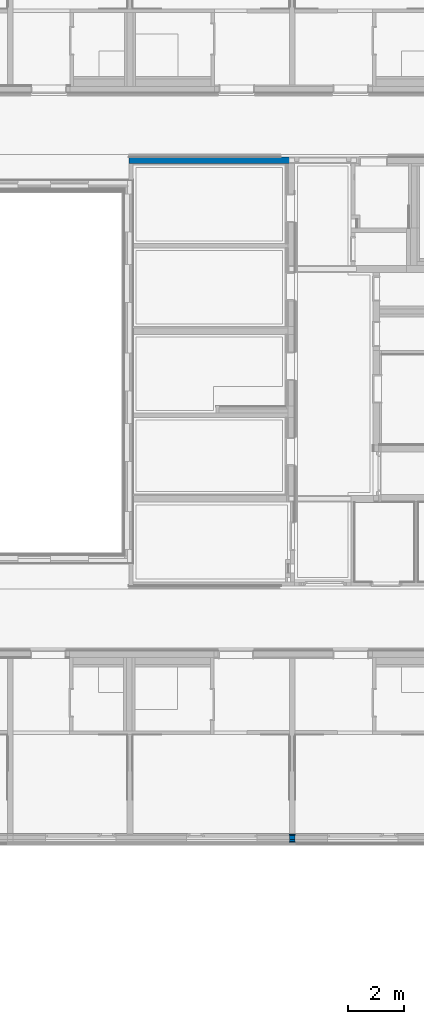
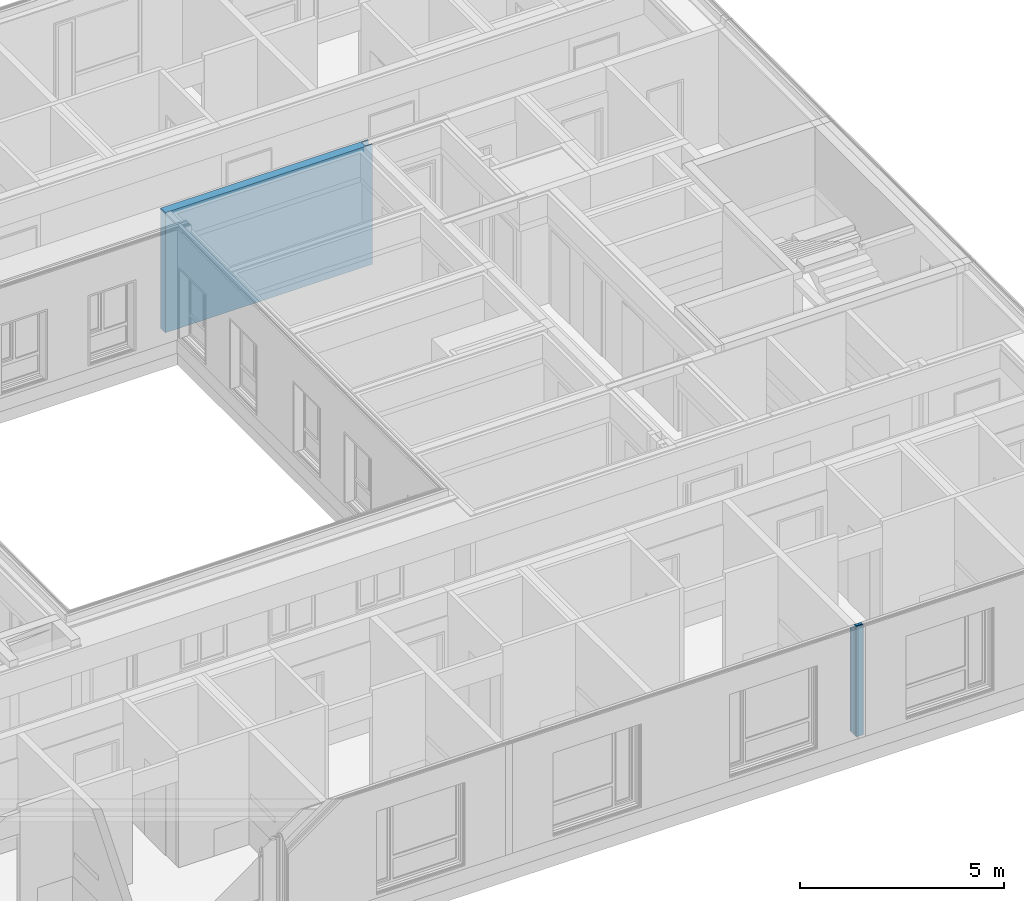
# One storey, part 53 of 207: 5 walls.
"""IFC4 building model written with IfcOpenShell, lengths in metres."""

import ifcopenshell
import ifcopenshell.guid

model = None  # the IFC model being written
_history = None  # IfcOwnerHistory: only IFC2X3 demands one
_inside = {}  # id of a spatial element -> (the spatial element, [elements in it])
_under = {}  # id of a project, library or spatial element -> (it, [spatial elements below it])
_declared = {}  # id of a project -> (the project, [libraries it declares])
_typed = {}  # id of a type object -> (the type object, [elements of that type])
_made_of = {}  # id of a material, layer set ... -> (it, [elements and type objects made of it])


def new_model(schema):
    """Start an empty IFC model of exactly this schema.

    Asked for "IFC4X3", IfcOpenShell would pick the latest addendum, in which some entities
    have other attributes; the version numbers below select the first issue.
    IFC2X3 requires an IfcOwnerHistory on every rooted entity: one is made here for all.
    """
    global model, _history
    if schema == "IFC4X3":
        model = ifcopenshell.file(schema_version=(4, 3, 0, 0))
    else:
        model = ifcopenshell.file(schema=schema)
    _inside.clear()
    _under.clear()
    _declared.clear()
    _typed.clear()
    _made_of.clear()
    _history = None
    if model.schema == "IFC2X3":
        org = make("IfcOrganization", Name="unknown")
        user = make(
            "IfcPersonAndOrganization",
            ThePerson=make("IfcPerson", FamilyName="unknown"),
            TheOrganization=org,
        )
        app = make(
            "IfcApplication",
            ApplicationDeveloper=org,
            Version="unknown",
            ApplicationFullName="unknown",
            ApplicationIdentifier="unknown",
        )
        _history = make(
            "IfcOwnerHistory",
            OwningUser=user,
            OwningApplication=app,
            ChangeAction="ADDED",
            CreationDate=0,
        )
    return model


def make(cls, **values):
    """One entity of the class cls with the attributes given. An attribute that is None is left unset."""
    return model.create_entity(
        cls, **{name: value for name, value in values.items() if value is not None}
    )


def entity(cls, *values):
    """Any entity or typed value of the class cls, its attributes in the order of the schema. None: left unset."""
    e = model.create_entity(cls)
    for i, value in enumerate(values):
        if value is not None:
            e[i] = value
    return e


def rooted(cls, **values):
    """An entity with a GlobalId (a new one), such as an element, a storey or a relation."""
    return make(cls, GlobalId=ifcopenshell.guid.new(), OwnerHistory=_history, **values)


def si_unit(unit_type, name, prefix=None):
    """IfcSIUnit, for example si_unit("LENGTHUNIT", "METRE", prefix="MILLI")."""
    return make("IfcSIUnit", UnitType=unit_type, Prefix=prefix, Name=name)


def converted_unit(unit_type, name, factor, base, dimensions=None, offset=None):
    """IfcConversionBasedUnit, such as the inch: factor (a typed value) times the base unit."""
    return make(
        "IfcConversionBasedUnit"
        if offset is None
        else "IfcConversionBasedUnitWithOffset",
        ConversionOffset=offset,
        Dimensions=None
        if dimensions is None
        else entity("IfcDimensionalExponents", *dimensions),
        UnitType=unit_type,
        Name=name,
        ConversionFactor=make(
            "IfcMeasureWithUnit", ValueComponent=factor, UnitComponent=base
        ),
    )


def derived_unit(unit_type, elements):
    """IfcDerivedUnit: a product of units, each with its exponent."""
    return make(
        "IfcDerivedUnit",
        Elements=[
            make("IfcDerivedUnitElement", Unit=unit, Exponent=power)
            for unit, power in elements
        ],
        UnitType=unit_type,
    )


def assignment(units):
    """IfcUnitAssignment: the units of a project."""
    return None if units is None else make("IfcUnitAssignment", Units=units)


def point(xyz):
    """IfcCartesianPoint."""
    return None if xyz is None else make("IfcCartesianPoint", Coordinates=xyz)


def direction(xyz):
    """IfcDirection."""
    return None if xyz is None else make("IfcDirection", DirectionRatios=xyz)


def frame(location, z_axis=None, x_axis=None):
    """IfcAxis2Placement3D, a coordinate frame: its origin and axes. An axis left out is left unset."""
    return make(
        "IfcAxis2Placement3D",
        Location=point(location),
        Axis=direction(z_axis),
        RefDirection=direction(x_axis),
    )


def frame_2d(location, x_axis=None):
    """IfcAxis2Placement2D, a coordinate frame in the plane: its origin and x axis."""
    return make(
        "IfcAxis2Placement2D", Location=point(location), RefDirection=direction(x_axis)
    )


def origin():
    """The frame at (0, 0, 0) with its axes left unset."""
    return frame((0.0, 0.0, 0.0))


def origin_with_axes():
    """The frame at (0, 0, 0) with the z axis (0, 0, 1) and the x axis (1, 0, 0) written out."""
    return frame((0.0, 0.0, 0.0), z_axis=(0.0, 0.0, 1.0), x_axis=(1.0, 0.0, 0.0))


def place(relative_to, where):
    """IfcLocalPlacement: puts the frame where relative to a parent placement (None: the world)."""
    return make(
        "IfcLocalPlacement", PlacementRelTo=relative_to, RelativePlacement=where
    )


def context(
    kind, dimensions, precision=None, world=None, true_north=None, identifier=None
):
    """IfcGeometricRepresentationContext, for example the 3D "Model" context."""
    return make(
        "IfcGeometricRepresentationContext",
        ContextIdentifier=identifier,
        ContextType=kind,
        CoordinateSpaceDimension=dimensions,
        Precision=precision,
        WorldCoordinateSystem=world,
        TrueNorth=true_north,
    )


def subcontext(parent, identifier, kind, view, scale=None):
    """IfcGeometricRepresentationSubContext, for example "Body" below "Model"."""
    return make(
        "IfcGeometricRepresentationSubContext",
        ContextIdentifier=identifier,
        ContextType=kind,
        ParentContext=parent,
        TargetScale=scale,
        TargetView=view,
    )


def project(units=None, contexts=None):
    """IfcProject with its units and contexts."""
    return rooted(
        "IfcProject",
        Name="project",
        RepresentationContexts=contexts,
        UnitsInContext=assignment(units),
    )


def spatial(cls, under=None, at=None, **own):
    """A site, building, storey or space (cls), placed at a placement, below another one or the project."""
    s = rooted(cls, ObjectPlacement=at, **own)
    if under is not None:
        _under.setdefault(under.id(), (under, []))[1].append(s)
    return s


def polyline(points):
    """IfcPolyline through the points."""
    return make("IfcPolyline", Points=[point(p) for p in points])


def profile(cls, at=None, kind="AREA", **sizes):
    """A parametric profile (cls). Its sizes go by their IFC names, for example OverallWidth=200.0."""
    return make(cls, ProfileType=kind, Position=at, **sizes)


def rectangle(**sizes):
    """IfcRectangleProfileDef."""
    return profile("IfcRectangleProfileDef", **sizes)


def extrude(swept, where, along, depth):
    """IfcExtrudedAreaSolid: the profile swept, set in the frame where, extruded along a direction by depth."""
    return make(
        "IfcExtrudedAreaSolid",
        SweptArea=swept,
        Position=where,
        ExtrudedDirection=direction(along),
        Depth=depth,
    )


def clip(a, b, op="DIFFERENCE"):
    """IfcBooleanClippingResult: the solid a cut by the half space b."""
    return make(
        "IfcBooleanClippingResult", Operator=op, FirstOperand=a, SecondOperand=b
    )


def bounded_halfspace(plane, agree, where, boundary):
    """IfcPolygonalBoundedHalfSpace: a half space limited to a polygon's prism."""
    return make(
        "IfcPolygonalBoundedHalfSpace",
        BaseSurface=make("IfcPlane", Position=plane),
        AgreementFlag=agree,
        Position=where,
        PolygonalBoundary=boundary,
    )


def shape(context_of_items, identifier, shape_type, items):
    """IfcShapeRepresentation: the items that make up one representation, for example the "Body"."""
    return make(
        "IfcShapeRepresentation",
        ContextOfItems=context_of_items,
        RepresentationIdentifier=identifier,
        RepresentationType=shape_type,
        Items=items,
    )


def material(Name=None, Category=None):
    """IfcMaterial."""
    return make("IfcMaterial", Name=Name, Category=Category)


def made_of(thing, what):
    """Note that an element or type object is made of a material, layer set ...; save() writes the relation."""
    if what is not None:
        _made_of.setdefault(what.id(), (what, []))[1].append(thing)
    return thing


def element(
    cls,
    number,
    at=None,
    inside=None,
    cuts=None,
    type_object=None,
    material=None,
    context=None,
    identifier="Body",
    shape_type=None,
    held_by="IfcProductDefinitionShape",
    body=None,
    shapes=None,
    **own,
):
    """One element of the class cls, such as IfcWall. Its Tag is "e" and its number.

    at: its placement. inside: the storey or other place that contains it. cuts: it is an
    opening in that element (IfcRelVoidsElement). A single representation is given by context,
    identifier, shape_type and body (its items); several are given by shapes. held_by: the class
    of the entity that holds the representations. save() writes the other relations.
    """
    e = rooted(cls, Tag="e%d" % number, ObjectPlacement=at, **own)
    if body is not None:
        shapes = [shape(context, identifier, shape_type, body)]
    if shapes is not None:
        e.Representation = make(held_by, Representations=shapes)
    if inside is not None:
        _inside.setdefault(inside.id(), (inside, []))[1].append(e)
    if cuts is not None:
        rooted(
            "IfcRelVoidsElement", RelatingBuildingElement=cuts, RelatedOpeningElement=e
        )
    if type_object is not None:
        _typed.setdefault(type_object.id(), (type_object, []))[1].append(e)
    return made_of(e, material)


def aggregate(whole, parts):
    """IfcRelAggregates: a whole, such as a stair, and the parts it consists of."""
    return rooted("IfcRelAggregates", RelatingObject=whole, RelatedObjects=parts)


def save(model, path):
    """Write the relations noted so far, then the file.

    IfcRelAggregates (storeys below a building ...), IfcRelContainedInSpatialStructure (elements
    in a storey), IfcRelDefinesByType, IfcRelAssociatesMaterial and IfcRelDeclares: one each for
    every whole, place, type object, material and project.
    """
    for whole, parts in _under.values():
        aggregate(whole, parts)
    for where, things in _inside.values():
        rooted(
            "IfcRelContainedInSpatialStructure",
            RelatedElements=things,
            RelatingStructure=where,
        )
    for kind, things in _typed.values():
        rooted("IfcRelDefinesByType", RelatedObjects=things, RelatingType=kind)
    for what, things in _made_of.values():
        rooted("IfcRelAssociatesMaterial", RelatedObjects=things, RelatingMaterial=what)
    for by, libraries in _declared.values():
        rooted("IfcRelDeclares", RelatingContext=by, RelatedDefinitions=libraries)
    model.write(path)


model = new_model("IFC4")

# Units and contexts
model_context = context("Model", 3, precision=1e-05, world=origin())
body_context = subcontext(model_context, "Body", "Model", "MODEL_VIEW")
ifc_project = project(units=[si_unit("LENGTHUNIT", "METRE"), si_unit("AREAUNIT", "SQUARE_METRE"), si_unit("VOLUMEUNIT", "CUBIC_METRE"), si_unit("MASSUNIT", "GRAM", prefix="KILO"), converted_unit("PLANEANGLEUNIT", "DEGREE", entity("IfcPlaneAngleMeasure", 0.0174532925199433), si_unit("PLANEANGLEUNIT", "RADIAN"), dimensions=[0, 0, 0, 0, 0, 0, 0]), derived_unit("THERMALTRANSMITTANCEUNIT", [(si_unit("POWERUNIT", "WATT"), 1), (si_unit("THERMODYNAMICTEMPERATUREUNIT", "KELVIN"), -1), (si_unit("LENGTHUNIT", "METRE"), -2)]), derived_unit("VOLUMETRICFLOWRATEUNIT", [(si_unit("LENGTHUNIT", "METRE"), 3), (converted_unit("TIMEUNIT", "hour", entity("IfcTimeMeasure", 3600.0), si_unit("TIMEUNIT", "SECOND"), dimensions=[0, 0, 1, 0, 0, 0, 0]), -1), (si_unit("LENGTHUNIT", "METRE"), -1)])], contexts=[model_context])

# Site, building, storey
site_placement = place(None, origin())
site = spatial("IfcSite", under=ifc_project, at=site_placement, Name="Psychiatrie Neubau Wunstorf", CompositionType="ELEMENT")
building_placement = place(site_placement, origin())
building = spatial("IfcBuilding", under=site, at=building_placement, Name="Neubau H2 Stationsgebäude", CompositionType="ELEMENT")
storey_placement = place(building_placement, frame((0.0, 0.0, -0.2)))
storey = spatial("IfcBuildingStorey", under=building, at=storey_placement, Name="H2 Ebene 0", CompositionType="ELEMENT", Elevation=-0.2)

# Walls
ifc_material_1 = material(Name="WA-LB")
wall_1_placement = place(storey_placement, frame((96.1, -1.16399999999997, 0.5), z_axis=(0.0, 0.0, 1.0), x_axis=(-1.0, 0.0, 0.0)))
element("IfcWall", 1, at=wall_1_placement, inside=storey, material=ifc_material_1, context=body_context, shape_type="SweptSolid", body=[
    extrude(rectangle(XDim=0.2, YDim=0.036, at=frame_2d((0.1, 0.018), x_axis=(1.0, 0.0))), origin_with_axes(), (0.0, 0.0, 1.0), 3.1),
])
ifc_material_2 = material(Name="WA-HD")
wall_2_placement = place(storey_placement, frame((96.1, -1.19999999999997, 0.5), z_axis=(0.0, 0.0, 1.0), x_axis=(-1.0, 0.0, 0.0)))
element("IfcWall", 2, at=wall_2_placement, inside=storey, material=ifc_material_2, context=body_context, shape_type="SweptSolid", body=[
    extrude(rectangle(XDim=0.2, YDim=0.16, at=frame_2d((0.1, 0.08), x_axis=(1.0, 0.0))), origin_with_axes(), (0.0, 0.0, 1.0), 3.1),
])
ifc_material_3 = material(Name="WA-DL")
wall_3_placement = place(storey_placement, frame((96.1, -1.35999999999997, 0.5), z_axis=(0.0, 0.0, 1.0), x_axis=(-1.0, 0.0, 0.0)))
element("IfcWall", 3, at=wall_3_placement, inside=storey, material=ifc_material_3, context=body_context, shape_type="SweptSolid", body=[
    extrude(rectangle(XDim=0.2, YDim=0.08, at=frame_2d((0.1, 0.04), x_axis=(1.0, 0.0))), origin_with_axes(), (0.0, 0.0, 1.0), 3.3),
])
ifc_material_4 = material(Name="WA-TP")
wall_4_placement = place(storey_placement, frame((96.1, -1.43999999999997, 0.5), z_axis=(0.0, 0.0, 1.0), x_axis=(-1.0, 0.0, 0.0)))
element("IfcWall", 4, at=wall_4_placement, inside=storey, material=ifc_material_4, context=body_context, shape_type="SweptSolid", body=[
    extrude(rectangle(XDim=0.2, YDim=0.036, at=frame_2d((0.1, 0.018), x_axis=(1.0, 0.0))), origin_with_axes(), (0.0, 0.0, 1.0), 3.3),
])
ifc_material_5 = material(Name="WI-HW 60")
wall_5_placement = place(storey_placement, frame((90.211, 22.604, 0.0)))
element("IfcWall", 5, at=wall_5_placement, inside=storey, material=ifc_material_5, context=body_context, shape_type="Clipping", body=[
    clip(extrude(rectangle(XDim=5.87149995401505, YDim=0.232000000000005, at=frame_2d((2.93574997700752, 0.116000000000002), x_axis=(1.0, 0.0))), origin_with_axes(), (0.0, 0.0, 1.0), 3.6), bounded_halfspace(frame((5.77349683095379, 0.115999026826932, 3.4), z_axis=(0.0, 0.0, -1.0), x_axis=(0.0, -1.0, 0.0)), True, origin_with_axes(), polyline([(5.67549373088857, 0.195999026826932), (5.67549373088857, 0.0359990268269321), (5.87149994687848, 0.0359990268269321), (5.87149991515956, 0.195999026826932), (5.67549373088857, 0.195999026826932)]))),
])

save(model, "model.ifc")
